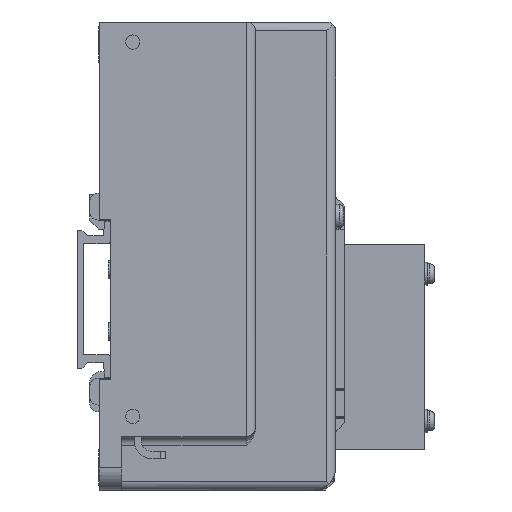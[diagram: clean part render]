
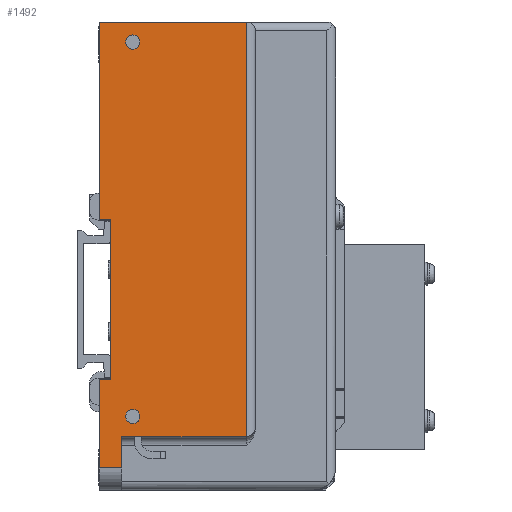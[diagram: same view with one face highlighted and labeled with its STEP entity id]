
A CAD part, left-side view. The second image highlights one B-rep face of the part: STEP entity #1492.
In plain terms, the highlighted planar face has unit normal (-1, 0, 0).
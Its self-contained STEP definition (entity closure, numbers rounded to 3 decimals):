
#1492=ADVANCED_FACE('',(#9048,#9049,#9050),#9047,.F.);
#9047=PLANE('',#16837);
#9048=FACE_OUTER_BOUND('',#16838,.T.);
#9049=FACE_BOUND('',#16839,.T.);
#9050=FACE_BOUND('',#16840,.T.);
#16834=CARTESIAN_POINT('',(0.,-41.3,72.2));
#16835=DIRECTION('',(1.,0.,0.));
#16836=DIRECTION('',(0.,0.,-1.));
#16837=AXIS2_PLACEMENT_3D('',#16834,#16835,#16836);
#16838=EDGE_LOOP('',(#23228,#23229,#23230,#23231,#23232,#23233,#23234,#23235,#23236,#23237));
#16839=EDGE_LOOP('',(#23238,#23239));
#16840=EDGE_LOOP('',(#23240,#23241));
#23228=ORIENTED_EDGE('',*,*,#27569,.F.);
#23229=ORIENTED_EDGE('',*,*,#27534,.T.);
#23230=ORIENTED_EDGE('',*,*,#27568,.F.);
#23231=ORIENTED_EDGE('',*,*,#27570,.F.);
#23232=ORIENTED_EDGE('',*,*,#27571,.T.);
#23233=ORIENTED_EDGE('',*,*,#27572,.F.);
#23234=ORIENTED_EDGE('',*,*,#27573,.T.);
#23235=ORIENTED_EDGE('',*,*,#27574,.T.);
#23236=ORIENTED_EDGE('',*,*,#27575,.F.);
#23237=ORIENTED_EDGE('',*,*,#27576,.F.);
#23238=ORIENTED_EDGE('',*,*,#27577,.F.);
#23239=ORIENTED_EDGE('',*,*,#27578,.F.);
#23240=ORIENTED_EDGE('',*,*,#27579,.F.);
#23241=ORIENTED_EDGE('',*,*,#27580,.F.);
#27534=EDGE_CURVE('',#41839,#41832,#41840,.T.);
#27568=EDGE_CURVE('',#42066,#41832,#42073,.T.);
#27569=EDGE_CURVE('',#41839,#42079,#42080,.T.);
#27570=EDGE_CURVE('',#42086,#42066,#42087,.T.);
#27571=EDGE_CURVE('',#42086,#41266,#42093,.T.);
#27572=EDGE_CURVE('',#42099,#41266,#42100,.T.);
#27573=EDGE_CURVE('',#42099,#42106,#42107,.T.);
#27574=EDGE_CURVE('',#42106,#42113,#42114,.T.);
#27575=EDGE_CURVE('',#42120,#42113,#42121,.T.);
#27576=EDGE_CURVE('',#42079,#42120,#42127,.T.);
#27577=EDGE_CURVE('',#42133,#42134,#42135,.T.);
#27578=EDGE_CURVE('',#42134,#42133,#42141,.T.);
#27579=EDGE_CURVE('',#42147,#42148,#42149,.T.);
#27580=EDGE_CURVE('',#42148,#42147,#42155,.T.);
#41266=VERTEX_POINT('',#55488);
#41832=VERTEX_POINT('',#55817);
#41839=VERTEX_POINT('',#55822);
#41840=LINE('',#55823,#55824);
#42066=VERTEX_POINT('',#55955);
#42073=LINE('',#55960,#55961);
#42079=VERTEX_POINT('',#55963);
#42080=LINE('',#55964,#55965);
#42086=VERTEX_POINT('',#55967);
#42087=LINE('',#55968,#55969);
#42093=LINE('',#55971,#55972);
#42099=VERTEX_POINT('',#55974);
#42100=LINE('',#55975,#55976);
#42106=VERTEX_POINT('',#55978);
#42107=LINE('',#55979,#55980);
#42113=VERTEX_POINT('',#55982);
#42114=LINE('',#55983,#55984);
#42120=VERTEX_POINT('',#55986);
#42121=LINE('',#55987,#55988);
#42127=LINE('',#55990,#55991);
#42133=VERTEX_POINT('',#55993);
#42134=VERTEX_POINT('',#55994);
#42135=CIRCLE('',#55998,1.6);
#42141=CIRCLE('',#56002,1.6);
#42147=VERTEX_POINT('',#56003);
#42148=VERTEX_POINT('',#56004);
#42149=CIRCLE('',#56008,1.6);
#42155=CIRCLE('',#56012,1.6);
#55488=CARTESIAN_POINT('',(0.,-38.,-30.8));
#55817=CARTESIAN_POINT('',(0.,-5.,-37.8));
#55822=CARTESIAN_POINT('',(0.,-5.,-18.));
#55823=CARTESIAN_POINT('',(0.,-5.,-18.));
#55824=VECTOR('',#55825,19.8);
#55825=DIRECTION('',(0.,0.,-1.));
#55955=CARTESIAN_POINT('',(0.,-10.,-37.8));
#55960=CARTESIAN_POINT('',(0.,-10.,-37.8));
#55961=VECTOR('',#55962,5.);
#55962=DIRECTION('',(0.,1.,0.));
#55963=CARTESIAN_POINT('',(0.,-7.5,-18.));
#55964=CARTESIAN_POINT('',(0.,-5.,-18.));
#55965=VECTOR('',#55966,2.5);
#55966=DIRECTION('',(0.,-1.,0.));
#55967=CARTESIAN_POINT('',(0.,-10.,-30.8));
#55968=CARTESIAN_POINT('',(0.,-10.,-30.8));
#55969=VECTOR('',#55970,7.);
#55970=DIRECTION('',(0.,0.,-1.));
#55971=CARTESIAN_POINT('',(0.,-10.,-30.8));
#55972=VECTOR('',#55973,28.);
#55973=DIRECTION('',(0.,-1.,0.));
#55974=CARTESIAN_POINT('',(0.,-38.,62.2));
#55975=CARTESIAN_POINT('',(0.,-38.,62.2));
#55976=VECTOR('',#55977,93.);
#55977=DIRECTION('',(0.,0.,-1.));
#55978=CARTESIAN_POINT('',(0.,-5.,62.2));
#55979=CARTESIAN_POINT('',(0.,-38.,62.2));
#55980=VECTOR('',#55981,33.);
#55981=DIRECTION('',(0.,1.,0.));
#55982=CARTESIAN_POINT('',(0.,-5.,18.));
#55983=CARTESIAN_POINT('',(0.,-5.,62.2));
#55984=VECTOR('',#55985,44.2);
#55985=DIRECTION('',(0.,0.,-1.));
#55986=CARTESIAN_POINT('',(0.,-7.5,18.));
#55987=CARTESIAN_POINT('',(0.,-7.5,18.));
#55988=VECTOR('',#55989,2.5);
#55989=DIRECTION('',(0.,1.,0.));
#55990=CARTESIAN_POINT('',(0.,-7.5,-18.));
#55991=VECTOR('',#55992,36.);
#55992=DIRECTION('',(0.,0.,1.));
#55993=CARTESIAN_POINT('',(0.,-12.5,59.3));
#55994=CARTESIAN_POINT('',(0.,-12.5,56.1));
#55995=CARTESIAN_POINT('',(0.,-12.5,57.7));
#55996=DIRECTION('',(-1.,0.,0.));
#55997=DIRECTION('',(0.,0.,-1.));
#55998=AXIS2_PLACEMENT_3D('',#55995,#55996,#55997);
#55999=CARTESIAN_POINT('',(0.,-12.5,57.7));
#56000=DIRECTION('',(-1.,0.,0.));
#56001=DIRECTION('',(0.,0.,-1.));
#56002=AXIS2_PLACEMENT_3D('',#55999,#56000,#56001);
#56003=CARTESIAN_POINT('',(0.,-12.5,-24.7));
#56004=CARTESIAN_POINT('',(0.,-12.5,-27.9));
#56005=CARTESIAN_POINT('',(0.,-12.5,-26.3));
#56006=DIRECTION('',(-1.,0.,0.));
#56007=DIRECTION('',(0.,0.,-1.));
#56008=AXIS2_PLACEMENT_3D('',#56005,#56006,#56007);
#56009=CARTESIAN_POINT('',(0.,-12.5,-26.3));
#56010=DIRECTION('',(-1.,0.,0.));
#56011=DIRECTION('',(0.,0.,-1.));
#56012=AXIS2_PLACEMENT_3D('',#56009,#56010,#56011);
